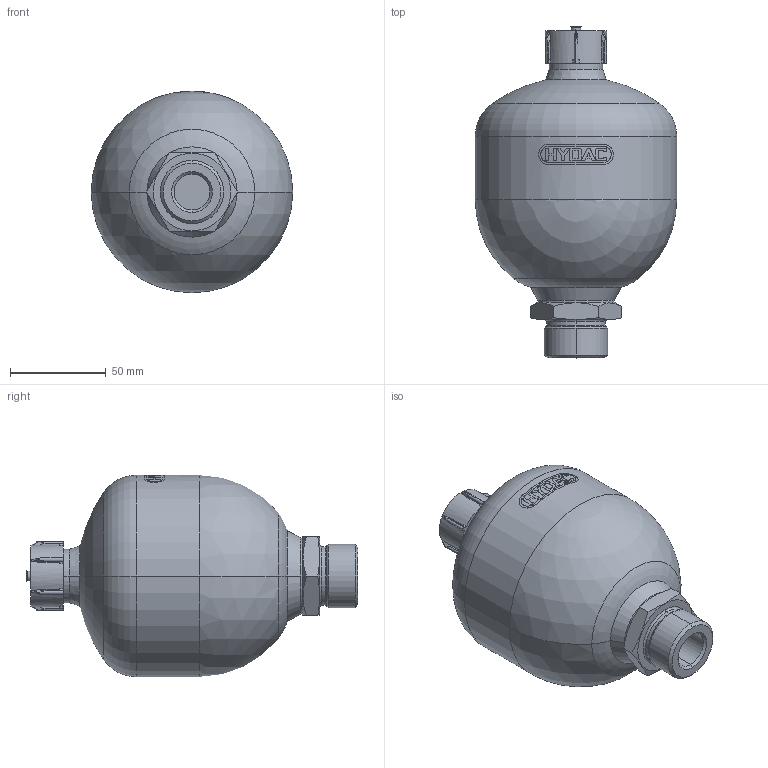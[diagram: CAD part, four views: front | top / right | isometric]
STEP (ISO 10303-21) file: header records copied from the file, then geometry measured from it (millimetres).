
FILE_DESCRIPTION (( 'STEP AP214' ), '1' );
FILE_NAME ('HYDAC-SBO210_0,5E1_AB.STEP', '2020-01-30T11:08:25', ( '' ), ( '' ), 'SwSTEP 2.0', 'SolidWorks 2019', '' );
FILE_SCHEMA (( 'AUTOMOTIVE_DESIGN' ));
Length unit declared in the file: millimetre
Products named in the file (1): HYDAC-SBO210_0,5E1_AB
Bounding box: 105 x 173 x 105 mm (x, y, z)
Volume: 810068.9 mm3; surface area: 49980.8 mm2
Topology: 1 solids, 1 shells, 235 faces, 638 edges, 419 vertices
Faces by surface type: plane 111, cylinder 63, bspline 26, torus 17, cone 16, sphere 2
Entity records: 10640 total; most frequent: CARTESIAN_POINT 3561, ORIENTED_EDGE 1268, DIRECTION 1080, EDGE_CURVE 634, VERTEX_POINT 417, AXIS2_PLACEMENT_3D 404, VECTOR 272, LINE 272
